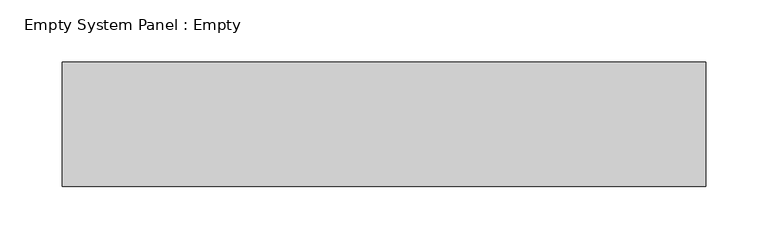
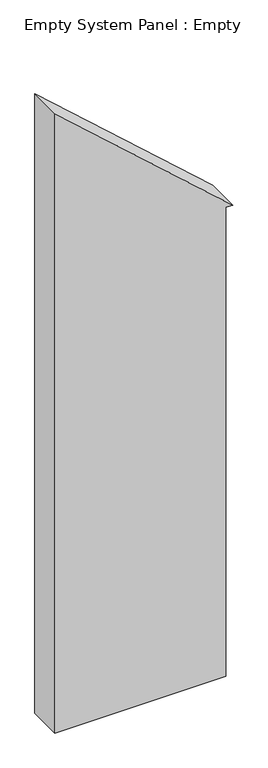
"""IFC4 building model written with IfcOpenShell, lengths in millimetres: plate geometry, Empty System Panel : Empty."""

from ifc_helpers import new_model, si_unit, frame, origin, place, context, project, spatial, polyline, outline, extrude, source, transform, mapped, element, save


def empty_system_panel_empty_0ca1d67c(model_context):
    return source(origin(), model_context, "Body", "SweptSolid", [
        extrude(outline(polyline([(0.0, -258.7446429), (0.0, 238.7446429), (1442.3784576, 238.7446429), (1442.3784576, 258.7446429), (1905.2809548, -258.7446429), (0.0, -258.7446429)])), frame((0.0, -50.0, 0.0), z_axis=(0.0, 1.0, 0.0), x_axis=(0.0, 0.0, 1.0)), (0.0, 0.0, 1.0), 100.0),
    ])


if __name__ == "__main__":
    model = new_model("IFC4")
    model_context = context("Model", 3, world=origin())
    ifc_project = project(units=[si_unit("LENGTHUNIT", "METRE", prefix="MILLI")], contexts=[model_context])
    site = spatial("IfcSite", under=ifc_project)
    building = spatial("IfcBuilding", under=site)
    placement = place(None, origin())
    empty_system_panel_empty_shape = empty_system_panel_empty_0ca1d67c(model_context)
    element("IfcPlate", 1, ObjectType="Empty System Panel : Empty", at=placement, inside=building, context=model_context, shape_type="MappedRepresentation", body=[
        mapped(empty_system_panel_empty_shape, transform((0.0, 0.0, 0.0), x_axis=(1.0, 0.0, 0.0), y_axis=(0.0, 1.0, 0.0), z_axis=(0.0, 0.0, 1.0))),
    ])
    save(model, "model.ifc")
